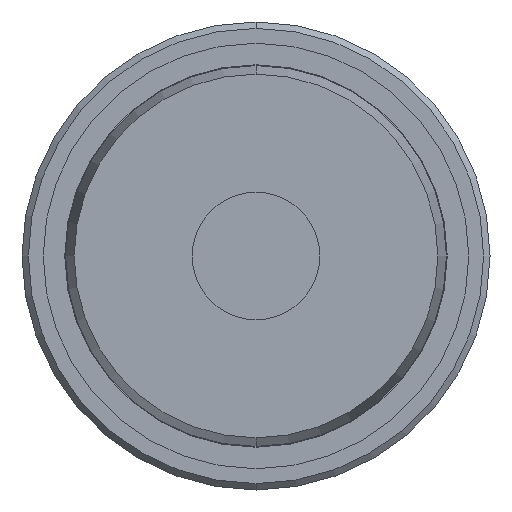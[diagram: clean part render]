
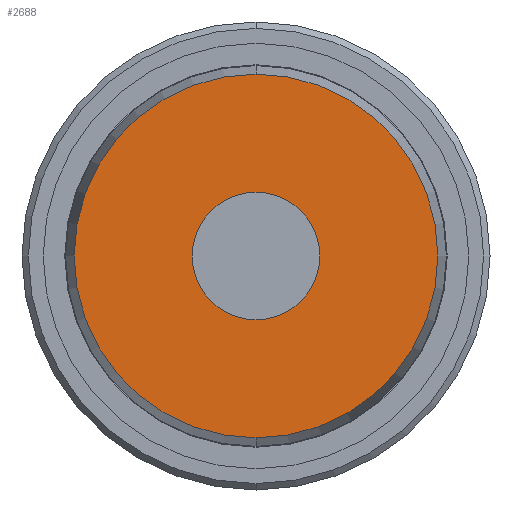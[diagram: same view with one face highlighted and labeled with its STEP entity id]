
A CAD part, front view. The second image highlights one B-rep face of the part: STEP entity #2688.
In plain terms, the highlighted planar face has unit normal (0, -1, 0).
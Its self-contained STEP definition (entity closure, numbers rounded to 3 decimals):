
#15 = DIRECTION ( 'NONE',  ( 0., 0., -1. ) ) ;
#70 = CARTESIAN_POINT ( 'NONE',  ( 0., 0., 3. ) ) ;
#141 = AXIS2_PLACEMENT_3D ( 'NONE', #3113, #1569, #15 ) ;
#199 = ORIENTED_EDGE ( 'NONE', *, *, #1747, .T. ) ;
#214 = AXIS2_PLACEMENT_3D ( 'NONE', #633, #816, #743 ) ;
#281 = DIRECTION ( 'NONE',  ( 0., 1., 0. ) ) ;
#415 = EDGE_LOOP ( 'NONE', ( #2013, #2836 ) ) ;
#540 = CIRCLE ( 'NONE', #924, 8.548 ) ;
#633 = CARTESIAN_POINT ( 'NONE',  ( 0., 0., 0. ) ) ;
#725 = AXIS2_PLACEMENT_3D ( 'NONE', #854, #863, #866 ) ;
#743 = DIRECTION ( 'NONE',  ( 0., 0., 1. ) ) ;
#811 = CARTESIAN_POINT ( 'NONE',  ( -8.987, 0., 0. ) ) ;
#816 = DIRECTION ( 'NONE',  ( 0., -1., 0. ) ) ;
#854 = CARTESIAN_POINT ( 'NONE',  ( 0., 0., 0. ) ) ;
#863 = DIRECTION ( 'NONE',  ( 0., -1., 0. ) ) ;
#866 = DIRECTION ( 'NONE',  ( 0., 0., -1. ) ) ;
#924 = AXIS2_PLACEMENT_3D ( 'NONE', #1647, #1669, #1678 ) ;
#966 = FACE_OUTER_BOUND ( 'NONE', #3305, .T. ) ;
#1018 = EDGE_CURVE ( 'NONE', #2817, #3075, #1458, .T. ) ;
#1306 = AXIS2_PLACEMENT_3D ( 'NONE', #811, #281, #3116 ) ;
#1321 = PLANE ( 'NONE',  #1306 ) ;
#1444 = CARTESIAN_POINT ( 'NONE',  ( 0., 0., -8.548 ) ) ;
#1458 = CIRCLE ( 'NONE', #725, 3. ) ;
#1569 = DIRECTION ( 'NONE',  ( 0., -1., 0. ) ) ;
#1647 = CARTESIAN_POINT ( 'NONE',  ( 0., 0., 0. ) ) ;
#1669 = DIRECTION ( 'NONE',  ( 0., -1., 0. ) ) ;
#1678 = DIRECTION ( 'NONE',  ( 0., 0., 1. ) ) ;
#1701 = EDGE_CURVE ( 'NONE', #2509, #2093, #3103, .T. ) ;
#1747 = EDGE_CURVE ( 'NONE', #2093, #2509, #540, .T. ) ;
#2013 = ORIENTED_EDGE ( 'NONE', *, *, #3177, .F. ) ;
#2093 = VERTEX_POINT ( 'NONE', #3049 ) ;
#2223 = ORIENTED_EDGE ( 'NONE', *, *, #1701, .T. ) ;
#2509 = VERTEX_POINT ( 'NONE', #1444 ) ;
#2531 = CARTESIAN_POINT ( 'NONE',  ( 0., 0., -3. ) ) ;
#2688 = ADVANCED_FACE ( 'NONE', ( #2908, #966 ), #1321, .F. ) ;
#2817 = VERTEX_POINT ( 'NONE', #70 ) ;
#2836 = ORIENTED_EDGE ( 'NONE', *, *, #1018, .F. ) ;
#2908 = FACE_BOUND ( 'NONE', #415, .T. ) ;
#3049 = CARTESIAN_POINT ( 'NONE',  ( 0., 0., 8.548 ) ) ;
#3072 = CIRCLE ( 'NONE', #141, 3. ) ;
#3075 = VERTEX_POINT ( 'NONE', #2531 ) ;
#3103 = CIRCLE ( 'NONE', #214, 8.548 ) ;
#3113 = CARTESIAN_POINT ( 'NONE',  ( 0., 0., 0. ) ) ;
#3116 = DIRECTION ( 'NONE',  ( 0., 0., 1. ) ) ;
#3177 = EDGE_CURVE ( 'NONE', #3075, #2817, #3072, .T. ) ;
#3305 = EDGE_LOOP ( 'NONE', ( #199, #2223 ) ) ;
